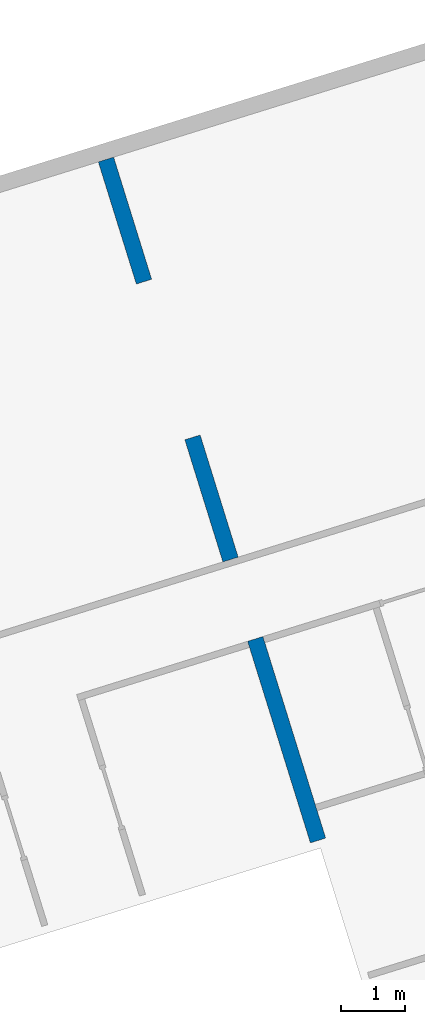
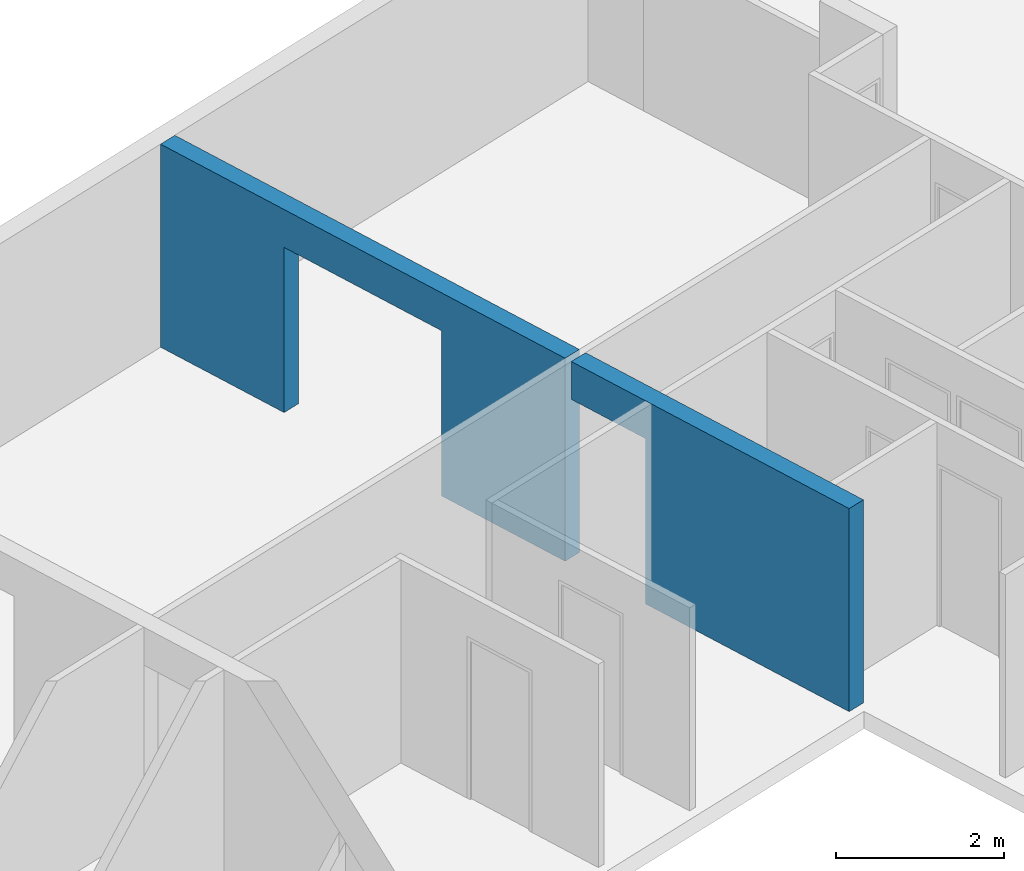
# One storey, part 7 of 7: 1 wall, 2 openings.
"""IFC4 building model written with IfcOpenShell, lengths in metres."""

from ifc_helpers import new_model, entity, si_unit, converted_unit, direction, frame, origin, place, context, subcontext, project, spatial, indexed_curve, outline, extrude, polygons, material, type_object, element, save


model = new_model("IFC4")

# Units and contexts
model_context = context("Model", 3, precision=1e-05, world=origin(), true_north=direction((6.12323399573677e-17, 1.0)))
body_context = subcontext(model_context, "Body", "Model", "MODEL_VIEW")
ifc_project = project(units=[si_unit("LENGTHUNIT", "METRE"), si_unit("AREAUNIT", "SQUARE_METRE"), si_unit("VOLUMEUNIT", "CUBIC_METRE"), converted_unit("PLANEANGLEUNIT", "DEGREE", entity("IfcPlaneAngleMeasure", 0.0174532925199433), si_unit("PLANEANGLEUNIT", "RADIAN"), dimensions=[0, 0, 0, 0, 0, 0, 0])], contexts=[model_context])

# Site, building, storey
site_placement = place(None, frame((13.1347999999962, 11.9886000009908, 0.0), z_axis=(0.0, 0.0, 1.0), x_axis=(0.954770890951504, 0.297342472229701, 0.0)))
site = spatial("IfcSite", under=ifc_project, at=site_placement, Name="Schiehaven", CompositionType="ELEMENT")
building_placement = place(site_placement, origin())
building = spatial("IfcBuilding", under=site, at=building_placement, Name="VORM huis", CompositionType="ELEMENT")
storey_placement = place(building_placement, frame((0.0, 0.0, -3.2)))
storey = spatial("IfcBuildingStorey", under=building, at=storey_placement, Name="-1 kelder", CompositionType="ELEMENT", Elevation=-3.2)

# Wall, openings
ifc_material = material(Name="beton_gewapend_ihw", Category="Miscellaneous")
wall_type = type_object("IfcWallType", Name="Basic Wall:28_WA_skelet_wand 250mm_gen", PredefinedType="STANDARD")
wall_placement = place(storey_placement, frame((20.0, 22.325, 0.0), z_axis=(0.0, 0.0, 1.0), x_axis=(0.0, 1.0, 0.0)))
wall = element("IfcWall", 1, at=wall_placement, inside=storey, type_object=wall_type, material=ifc_material, Name="Constructieve wand", ObjectType="Wand", PredefinedType="NOTDEFINED", context=body_context, shape_type="Tessellation", body=[
    polygons([(0.0, -0.124999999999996, 2.95), (0.0, -0.124999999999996, 0.0), (3.29999999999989, -0.124999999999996, 0.0), (3.29999999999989, -0.124999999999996, 2.4), (4.49999999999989, -0.124999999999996, 2.4), (4.49999999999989, -0.124999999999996, 2.95), (0.0, 0.125000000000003, 0.0), (3.29999999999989, 0.125000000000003, 0.0), (4.49999999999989, 0.125000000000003, 2.4), (4.49999999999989, 0.125000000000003, 2.95), (0.0, 0.125000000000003, 2.95), (3.29999999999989, 0.125000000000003, 2.4)], [[[1, 2, 3, 4, 5, 6]], [[2, 7, 8, 3]], [[6, 5, 9, 10]], [[2, 1, 11, 7]], [[4, 12, 9, 5]], [[12, 4, 3, 8]], [[11, 1, 6, 10]], [[7, 11, 10, 9, 12, 8]]], closed=True),
    polygons([(11.15, 0.125000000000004, 0.0), (9.15000000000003, 0.125000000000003, 0.0), (9.15000000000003, 0.125000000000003, 2.4), (6.5999999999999, 0.125000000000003, 2.4), (6.5999999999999, 0.125000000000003, 0.0), (4.59999999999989, 0.125000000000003, 0.0), (4.59999999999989, 0.125000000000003, 2.95), (11.15, 0.125000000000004, 2.95), (11.15, -0.124999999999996, 2.95), (4.59999999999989, -0.124999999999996, 2.95), (6.5999999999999, -0.124999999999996, 2.4), (9.15000000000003, -0.124999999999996, 2.4), (6.5999999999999, -0.124999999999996, 0.0), (9.15000000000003, -0.124999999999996, 0.0), (11.15, -0.124999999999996, 0.0), (4.59999999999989, -0.124999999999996, 0.0)], [[[1, 2, 3, 4, 5, 6, 7, 8]], [[9, 8, 7, 10]], [[11, 4, 3, 12]], [[4, 11, 13, 5]], [[12, 3, 2, 14]], [[9, 15, 1, 8]], [[6, 16, 10, 7]], [[15, 14, 2, 1]], [[5, 13, 16, 6]], [[14, 15, 9, 10, 16, 13, 11, 12]]], closed=True),
])
opening_1_placement = place(wall_placement, origin())
element("IfcOpeningElement", 2, at=opening_1_placement, cuts=wall, Name="Constructieve wand", PredefinedType="OPENING", context=body_context, shape_type="SweptSolid", body=[
    extrude(outline(indexed_curve([(-1.2, -1.27500000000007), (1.2, -1.27500000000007), (1.2, 1.27500000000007), (-1.2, 1.27500000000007), (-1.2, -1.27500000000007)], self_intersect=False)), frame((7.87499999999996, -0.125, 1.2), z_axis=(0.0, 1.0, 0.0), x_axis=(0.0, 0.0, -1.0)), (0.0, 0.0, 1.0), 0.250000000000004),
])
opening_2_placement = place(wall_placement, origin())
element("IfcOpeningElement", 3, at=opening_2_placement, cuts=wall, Name="Constructieve wand", PredefinedType="OPENING", context=body_context, shape_type="SweptSolid", body=[
    extrude(outline(indexed_curve([(-1.2, -0.625000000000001), (1.2, -0.625000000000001), (1.2, 0.625000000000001), (-1.2, 0.625000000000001), (-1.2, -0.625000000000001)], self_intersect=False)), frame((3.92499999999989, -0.125000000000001, 1.2), z_axis=(0.0, 1.0, 0.0), x_axis=(0.0, 0.0, -1.0)), (0.0, 0.0, 1.0), 0.250000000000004),
])

save(model, "model.ifc")
